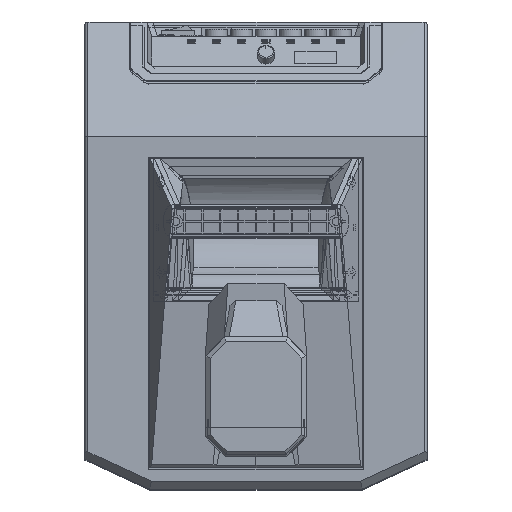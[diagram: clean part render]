
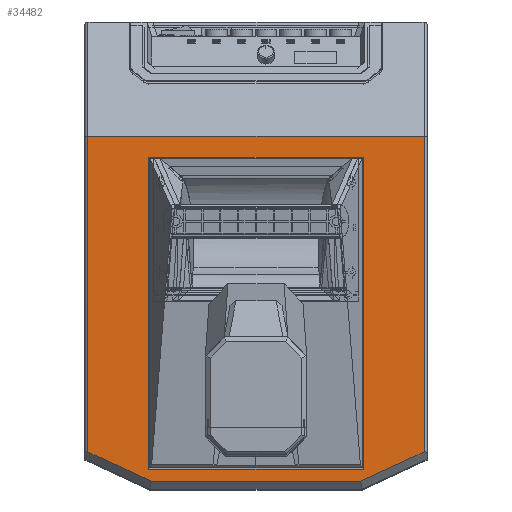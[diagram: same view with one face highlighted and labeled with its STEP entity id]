
A CAD part, top view. The second image highlights one B-rep face of the part: STEP entity #34482.
In plain terms, the highlighted planar face has unit normal (0, 0, 1).
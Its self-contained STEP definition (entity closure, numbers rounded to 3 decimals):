
#2988 = LINE ( 'NONE', #42852, #4100 ) ;
#3549 = ORIENTED_EDGE ( 'NONE', *, *, #25239, .F. ) ;
#3601 = EDGE_CURVE ( 'NONE', #19697, #57419, #7466, .T. ) ;
#3744 = VERTEX_POINT ( 'NONE', #25657 ) ;
#4100 = VECTOR ( 'NONE', #44183, 1000. ) ;
#5342 = VERTEX_POINT ( 'NONE', #9005 ) ;
#5423 = DIRECTION ( 'NONE',  ( -1., 0., 0. ) ) ;
#6275 = DIRECTION ( 'NONE',  ( 0., 1., 0. ) ) ;
#6648 = CARTESIAN_POINT ( 'NONE',  ( -107.95, 276.644, 0. ) ) ;
#7466 = LINE ( 'NONE', #27517, #53257 ) ;
#7777 = DIRECTION ( 'NONE',  ( 1., 0., 0. ) ) ;
#8508 = CARTESIAN_POINT ( 'NONE',  ( 105.243, -49., 0. ) ) ;
#8687 = VECTOR ( 'NONE', #53569, 1000. ) ;
#9005 = CARTESIAN_POINT ( 'NONE',  ( -169., 298., 0. ) ) ;
#9649 = CARTESIAN_POINT ( 'NONE',  ( 169., -19.574, 0. ) ) ;
#10906 = VECTOR ( 'NONE', #44456, 1000. ) ;
#11812 = CARTESIAN_POINT ( 'NONE',  ( -107.95, -36.756, 0. ) ) ;
#12794 = CARTESIAN_POINT ( 'NONE',  ( -56.333, 298., 0. ) ) ;
#14799 = LINE ( 'NONE', #50056, #10906 ) ;
#15483 = CARTESIAN_POINT ( 'NONE',  ( 169., -19.574, 0. ) ) ;
#16619 = FACE_BOUND ( 'NONE', #52966, .T. ) ;
#19697 = VERTEX_POINT ( 'NONE', #11812 ) ;
#21289 = CARTESIAN_POINT ( 'NONE',  ( 169., 298., 0. ) ) ;
#21715 = EDGE_CURVE ( 'NONE', #25407, #63199, #65071, .T. ) ;
#21756 = AXIS2_PLACEMENT_3D ( 'NONE', #51890, #61782, #41677 ) ;
#22357 = EDGE_CURVE ( 'NONE', #63199, #58635, #2988, .T. ) ;
#22891 = LINE ( 'NONE', #43361, #34346 ) ;
#23400 = VERTEX_POINT ( 'NONE', #27558 ) ;
#23466 = ORIENTED_EDGE ( 'NONE', *, *, #58751, .T. ) ;
#24104 = EDGE_CURVE ( 'NONE', #35703, #3744, #14799, .T. ) ;
#25066 = ORIENTED_EDGE ( 'NONE', *, *, #21715, .F. ) ;
#25239 = EDGE_CURVE ( 'NONE', #23400, #25407, #29377, .T. ) ;
#25407 = VERTEX_POINT ( 'NONE', #8508 ) ;
#25657 = CARTESIAN_POINT ( 'NONE',  ( 107.95, -36.756, 0. ) ) ;
#26074 = ORIENTED_EDGE ( 'NONE', *, *, #56785, .T. ) ;
#26396 = ORIENTED_EDGE ( 'NONE', *, *, #28802, .T. ) ;
#27517 = CARTESIAN_POINT ( 'NONE',  ( -107.95, -36.756, 0. ) ) ;
#27558 = CARTESIAN_POINT ( 'NONE',  ( 169., -19.574, 0. ) ) ;
#28802 = EDGE_CURVE ( 'NONE', #33660, #5342, #34696, .T. ) ;
#29184 = EDGE_CURVE ( 'NONE', #57419, #35703, #22891, .T. ) ;
#29377 = LINE ( 'NONE', #9649, #64475 ) ;
#29692 = DIRECTION ( 'NONE',  ( -0.908, -0.419, 0. ) ) ;
#33660 = VERTEX_POINT ( 'NONE', #21289 ) ;
#33673 = ORIENTED_EDGE ( 'NONE', *, *, #29184, .T. ) ;
#34096 = CARTESIAN_POINT ( 'NONE',  ( 107.95, -36.756, 0. ) ) ;
#34346 = VECTOR ( 'NONE', #7777, 1000. ) ;
#34482 = ADVANCED_FACE ( 'NONE', ( #16619, #62419 ), #42001, .T. ) ;
#34696 = B_SPLINE_CURVE_WITH_KNOTS ( 'NONE', 3,
 ( #38162, #57917, #12794, #58560 ),
 .UNSPECIFIED., .F., .F.,
 ( 4, 4 ),
 ( 0., 1. ),
 .UNSPECIFIED. ) ;
#34931 = ORIENTED_EDGE ( 'NONE', *, *, #35963, .T. ) ;
#35703 = VERTEX_POINT ( 'NONE', #58027 ) ;
#35963 = EDGE_CURVE ( 'NONE', #5342, #58635, #55554, .T. ) ;
#38162 = CARTESIAN_POINT ( 'NONE',  ( 169., 298., 0. ) ) ;
#40717 = CARTESIAN_POINT ( 'NONE',  ( -169., 298., 0. ) ) ;
#41038 = CARTESIAN_POINT ( 'NONE',  ( -105.243, -49., 0. ) ) ;
#41677 = DIRECTION ( 'NONE',  ( 1., 0., 0. ) ) ;
#42001 = PLANE ( 'NONE',  #21756 ) ;
#42852 = CARTESIAN_POINT ( 'NONE',  ( -105.243, -49., 0. ) ) ;
#43361 = CARTESIAN_POINT ( 'NONE',  ( -107.95, 276.644, 0. ) ) ;
#43530 = EDGE_LOOP ( 'NONE', ( #26396, #34931, #45815, #25066, #3549, #23466 ) ) ;
#44183 = DIRECTION ( 'NONE',  ( -0.908, 0.419, 0. ) ) ;
#44456 = DIRECTION ( 'NONE',  ( 0., -1., 0. ) ) ;
#45815 = ORIENTED_EDGE ( 'NONE', *, *, #22357, .F. ) ;
#47652 = DIRECTION ( 'NONE',  ( 0., 1., 0. ) ) ;
#49706 = VECTOR ( 'NONE', #6275, 1000. ) ;
#49924 = CARTESIAN_POINT ( 'NONE',  ( 105.243, -49., 0. ) ) ;
#49974 = DIRECTION ( 'NONE',  ( 0., -1., 0. ) ) ;
#50056 = CARTESIAN_POINT ( 'NONE',  ( 107.95, 276.644, 0. ) ) ;
#50912 = ORIENTED_EDGE ( 'NONE', *, *, #3601, .T. ) ;
#51064 = VECTOR ( 'NONE', #49974, 1000. ) ;
#51890 = CARTESIAN_POINT ( 'NONE',  ( 0., 346., 0. ) ) ;
#52966 = EDGE_LOOP ( 'NONE', ( #50912, #33673, #59311, #26074 ) ) ;
#53257 = VECTOR ( 'NONE', #47652, 1000. ) ;
#53569 = DIRECTION ( 'NONE',  ( -1., 0., 0. ) ) ;
#55033 = CARTESIAN_POINT ( 'NONE',  ( -169., -19.574, 0. ) ) ;
#55554 = LINE ( 'NONE', #40717, #51064 ) ;
#56785 = EDGE_CURVE ( 'NONE', #3744, #19697, #58827, .T. ) ;
#57419 = VERTEX_POINT ( 'NONE', #6648 ) ;
#57671 = VECTOR ( 'NONE', #5423, 1000. ) ;
#57917 = CARTESIAN_POINT ( 'NONE',  ( 56.333, 298., 0. ) ) ;
#58027 = CARTESIAN_POINT ( 'NONE',  ( 107.95, 276.644, 0. ) ) ;
#58560 = CARTESIAN_POINT ( 'NONE',  ( -169., 298., 0. ) ) ;
#58635 = VERTEX_POINT ( 'NONE', #55033 ) ;
#58751 = EDGE_CURVE ( 'NONE', #23400, #33660, #61284, .T. ) ;
#58827 = LINE ( 'NONE', #34096, #8687 ) ;
#59311 = ORIENTED_EDGE ( 'NONE', *, *, #24104, .T. ) ;
#61284 = LINE ( 'NONE', #15483, #49706 ) ;
#61782 = DIRECTION ( 'NONE',  ( 0., 0., 1. ) ) ;
#62419 = FACE_OUTER_BOUND ( 'NONE', #43530, .T. ) ;
#63199 = VERTEX_POINT ( 'NONE', #41038 ) ;
#64475 = VECTOR ( 'NONE', #29692, 1000. ) ;
#65071 = LINE ( 'NONE', #49924, #57671 ) ;
